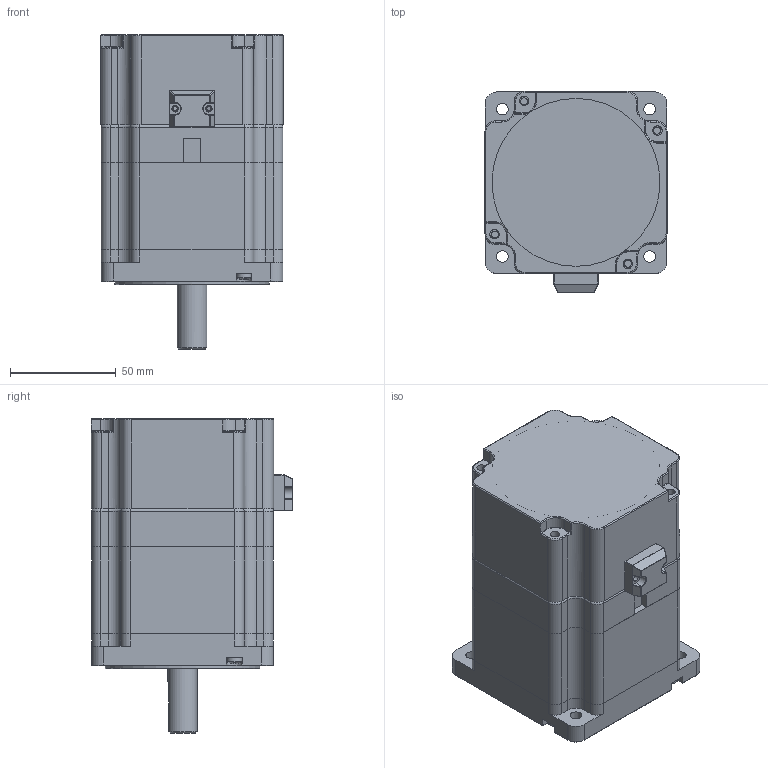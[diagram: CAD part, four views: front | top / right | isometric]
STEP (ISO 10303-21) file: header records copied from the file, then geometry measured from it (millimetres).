
FILE_DESCRIPTION (( 'STEP AP203' ), '1' );
FILE_NAME ('YK86HB80-4432K-01SC.STEP', '2020-01-03T08:12:10', ( '' ), ( '' ), 'SwSTEP 2.0', 'SolidWorks 2014', '' );
FILE_SCHEMA (( 'CONFIG_CONTROL_DESIGN' ));
Length unit declared in the file: millimetre
Products named in the file (19): 86BK-揤盄輸; YK286ECXXA1綴裔; YK286ECXXA1ヶ裔; YK286ECXXA1粣郋; YK286ECXXA1隅赽; 敕遠M4.0蹟佪; YK86HB80-4432K-01SC; 86BK-綴欶; 86BK
Assembly tree (11 placements, depth 3):
  86BK-揤盄輸
  YK286ECXXA1ヶ裔
  YK286ECXXA1綴裔
  YK286ECXXA1粣郋
  YK286ECXXA1隅赽
Bounding box: 86 x 95 x 148.5 mm (x, y, z)
Volume: 455812.8 mm3; surface area: 122805.7 mm2
Topology: 10 solids, 10 shells, 533 faces, 1257 edges, 741 vertices
Faces by surface type: plane 243, cylinder 196, torus 48, bspline 17, cone 16, sphere 13
Full cylindrical faces by diameter (mm): 2.05 x2, 3 x2, 3.3 x8, 4 x4, 4.4 x4, 4.5 x4, 5.5 x4, 7.2 x4, 14 x1, 15 x1, 16 x2, 35 x2, 55.96 x1, 73 x1
Entity records: 14856 total; most frequent: CARTESIAN_POINT 2775, DIRECTION 2258, ORIENTED_EDGE 2034, EDGE_CURVE 1017, AXIS2_PLACEMENT_3D 864, VERTEX_POINT 643, EDGE_LOOP 552, VECTOR 530
